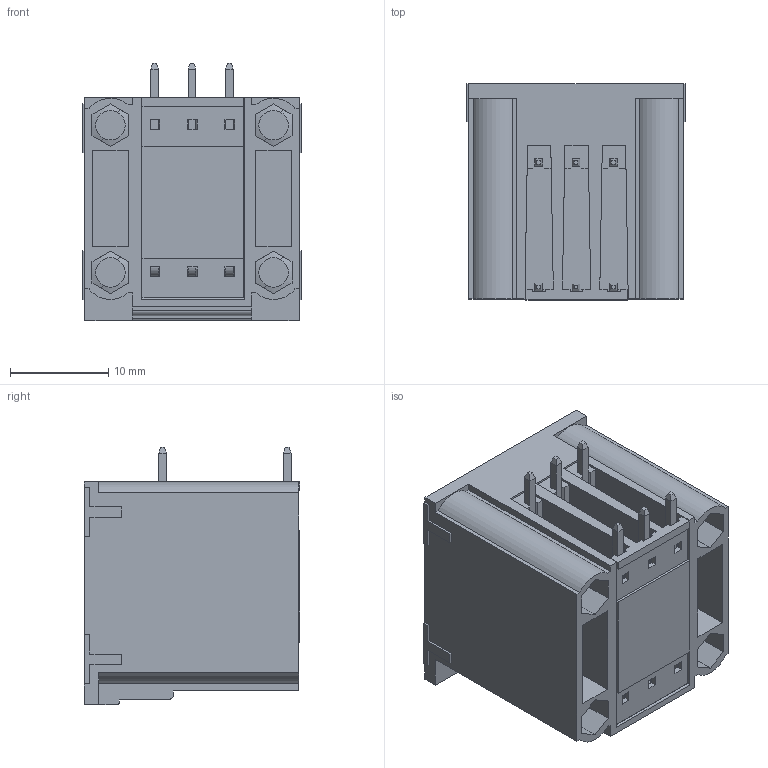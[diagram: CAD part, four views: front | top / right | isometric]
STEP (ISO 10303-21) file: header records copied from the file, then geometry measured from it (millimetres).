
FILE_DESCRIPTION((''),'2;1');
FILE_NAME('VL063251000AG','2020-07-29T',('renkang.li'),(''),'CREO PARAMETRIC BY PTC INC, 2016260','CREO PARAMETRIC BY PTC INC, 2016260','');
FILE_SCHEMA(('CONFIG_CONTROL_DESIGN'));
Products named in the file (1): VL063251000AG
Bounding box: 22.22 x 22 x 26.2 mm (x, y, z)
Volume: 4426.4 mm3; surface area: 9677.1 mm2
Topology: 1 solids, 7 shells, 837 faces, 2344 edges, 1524 vertices
Faces by surface type: plane 615, cylinder 142, cone 44, bspline 24, torus 12
Entity records: 43546 total; most frequent: CARTESIAN_POINT 22331, ORIENTED_EDGE 4672, DIRECTION 3950, EDGE_CURVE 2336, VECTOR 1820, LINE 1820, VERTEX_POINT 1524, AXIS2_PLACEMENT_3D 1065
